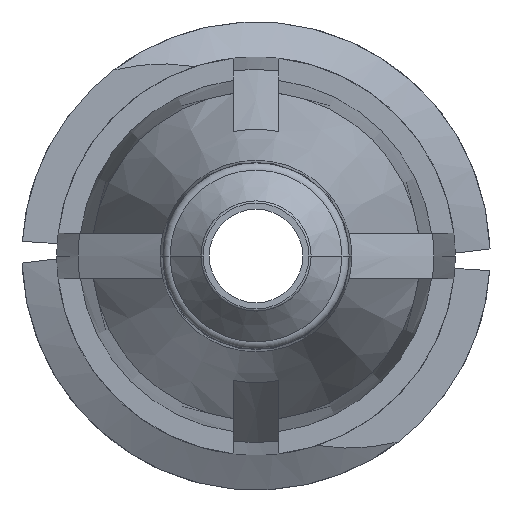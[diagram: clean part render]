
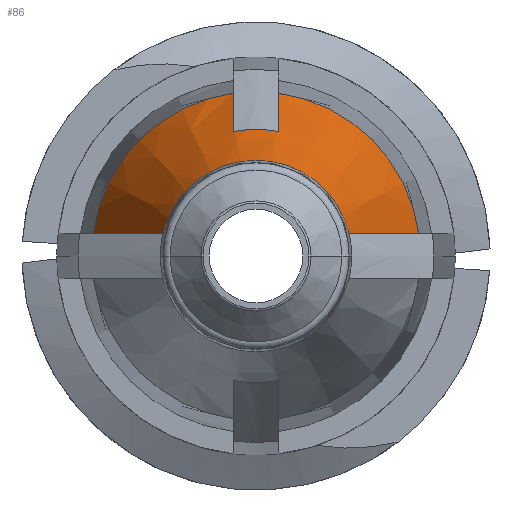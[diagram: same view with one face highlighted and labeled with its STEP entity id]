
A CAD part, front view. The second image highlights one B-rep face of the part: STEP entity #86.
In plain terms, the highlighted conical face has half-angle 20 degrees and reference radius 2.745 mm.
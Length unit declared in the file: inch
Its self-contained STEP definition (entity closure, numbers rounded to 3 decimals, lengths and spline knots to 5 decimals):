
#86 = ADVANCED_FACE ( 'NONE', ( #187 ), #2969, .T. ) ;
#106 = CARTESIAN_POINT ( 'NONE',  ( 0.07664, -0.48863, 0.015 ) ) ;
#128 = CARTESIAN_POINT ( 'NONE',  ( 0.015, -0.45131, 0.09036 ) ) ;
#187 = FACE_OUTER_BOUND ( 'NONE', #2146, .T. ) ;
#201 = CIRCLE ( 'NONE', #1092, 0.063 ) ;
#355 = VERTEX_POINT ( 'NONE', #674 ) ;
#359 = EDGE_CURVE ( 'NONE', #2593, #603, #892, .T. ) ;
#361 = ORIENTED_EDGE ( 'NONE', *, *, #1065, .F. ) ;
#382 = CARTESIAN_POINT ( 'NONE',  ( -0.09185, -0.44732, 0.015 ) ) ;
#435 = CARTESIAN_POINT ( 'NONE',  ( 0.015, -0.47395, 0.08198 ) ) ;
#454 = ORIENTED_EDGE ( 'NONE', *, *, #1885, .T. ) ;
#510 = B_SPLINE_CURVE_WITH_KNOTS ( 'NONE', 3,
 ( #1132, #3233, #1647, #575 ),
 .UNSPECIFIED., .F., .F.,
 ( 4, 4 ),
 ( 0.00343, 0.00527 ),
 .UNSPECIFIED. ) ;
#567 = VERTEX_POINT ( 'NONE', #849 ) ;
#575 = CARTESIAN_POINT ( 'NONE',  ( -0.015, -0.47395, 0.08198 ) ) ;
#603 = VERTEX_POINT ( 'NONE', #3183 ) ;
#627 = VERTEX_POINT ( 'NONE', #3215 ) ;
#658 = CARTESIAN_POINT ( 'NONE',  ( -0.015, -0.47395, 0.08198 ) ) ;
#674 = CARTESIAN_POINT ( 'NONE',  ( -0.015, -0.406, 0.10703 ) ) ;
#849 = CARTESIAN_POINT ( 'NONE',  ( 0.015, -0.406, 0.10703 ) ) ;
#892 = B_SPLINE_CURVE_WITH_KNOTS ( 'NONE', 3,
 ( #3254, #1422, #382, #1490 ),
 .UNSPECIFIED., .F., .F.,
 ( 4, 4 ),
 ( 0.00282, 0.00617 ),
 .UNSPECIFIED. ) ;
#895 = AXIS2_PLACEMENT_3D ( 'NONE', #2331, #2582, #2603 ) ;
#903 = CARTESIAN_POINT ( 'NONE',  ( 0.10703, -0.406, 0.015 ) ) ;
#924 = B_SPLINE_CURVE_WITH_KNOTS ( 'NONE', 3,
 ( #2214, #106, #1161, #903 ),
 .UNSPECIFIED., .F., .F.,
 ( 4, 4 ),
 ( 0.00282, 0.00617 ),
 .UNSPECIFIED. ) ;
#1038 = EDGE_CURVE ( 'NONE', #3228, #2714, #2267, .T. ) ;
#1065 = EDGE_CURVE ( 'NONE', #567, #2709, #2869, .T. ) ;
#1092 = AXIS2_PLACEMENT_3D ( 'NONE', #1216, #1231, #1509 ) ;
#1132 = CARTESIAN_POINT ( 'NONE',  ( -0.015, -0.406, 0.10703 ) ) ;
#1146 = CARTESIAN_POINT ( 'NONE',  ( 0., -0.406, 0. ) ) ;
#1161 = CARTESIAN_POINT ( 'NONE',  ( 0.09185, -0.44732, 0.015 ) ) ;
#1183 = CARTESIAN_POINT ( 'NONE',  ( 0.015, -0.42866, 0.0987 ) ) ;
#1216 = CARTESIAN_POINT ( 'NONE',  ( 0., -0.52985, 0. ) ) ;
#1224 = AXIS2_PLACEMENT_3D ( 'NONE', #1569, #1548, #2846 ) ;
#1231 = DIRECTION ( 'NONE',  ( 0., 1., 0. ) ) ;
#1283 = ORIENTED_EDGE ( 'NONE', *, *, #3204, .F. ) ;
#1290 = ORIENTED_EDGE ( 'NONE', *, *, #1038, .F. ) ;
#1317 = EDGE_CURVE ( 'NONE', #627, #2709, #924, .T. ) ;
#1422 = CARTESIAN_POINT ( 'NONE',  ( -0.07664, -0.48863, 0.015 ) ) ;
#1490 = CARTESIAN_POINT ( 'NONE',  ( -0.10703, -0.406, 0.015 ) ) ;
#1501 = AXIS2_PLACEMENT_3D ( 'NONE', #2274, #2072, #1541 ) ;
#1509 = DIRECTION ( 'NONE',  ( -1., 0., 0. ) ) ;
#1541 = DIRECTION ( 'NONE',  ( -1., 0., 0. ) ) ;
#1548 = DIRECTION ( 'NONE',  ( 0., 1., 0. ) ) ;
#1569 = CARTESIAN_POINT ( 'NONE',  ( 0., -0.47395, 0. ) ) ;
#1647 = CARTESIAN_POINT ( 'NONE',  ( -0.015, -0.45131, 0.09036 ) ) ;
#1791 = EDGE_CURVE ( 'NONE', #355, #3228, #510, .T. ) ;
#1885 = EDGE_CURVE ( 'NONE', #2593, #627, #201, .T. ) ;
#1938 = DIRECTION ( 'NONE',  ( 0., 1., 0. ) ) ;
#1959 = ORIENTED_EDGE ( 'NONE', *, *, #1791, .F. ) ;
#2072 = DIRECTION ( 'NONE',  ( 0., 1., 0. ) ) ;
#2120 = ORIENTED_EDGE ( 'NONE', *, *, #359, .F. ) ;
#2146 = EDGE_LOOP ( 'NONE', ( #2120, #454, #2399, #361, #3200, #1290, #1959, #1283 ) ) ;
#2186 = DIRECTION ( 'NONE',  ( -1., 0., 0. ) ) ;
#2214 = CARTESIAN_POINT ( 'NONE',  ( 0.06119, -0.52985, 0.015 ) ) ;
#2267 = CIRCLE ( 'NONE', #1224, 0.08335 ) ;
#2274 = CARTESIAN_POINT ( 'NONE',  ( 0., -0.406, 0. ) ) ;
#2298 = CARTESIAN_POINT ( 'NONE',  ( 0.10703, -0.406, 0.015 ) ) ;
#2306 = CIRCLE ( 'NONE', #3293, 0.10808 ) ;
#2331 = CARTESIAN_POINT ( 'NONE',  ( 0., -0.406, 0. ) ) ;
#2374 = CARTESIAN_POINT ( 'NONE',  ( -0.06119, -0.52985, 0.015 ) ) ;
#2399 = ORIENTED_EDGE ( 'NONE', *, *, #1317, .T. ) ;
#2484 = CARTESIAN_POINT ( 'NONE',  ( 0.015, -0.47395, 0.08198 ) ) ;
#2582 = DIRECTION ( 'NONE',  ( 0., 1., 0. ) ) ;
#2593 = VERTEX_POINT ( 'NONE', #2374 ) ;
#2603 = DIRECTION ( 'NONE',  ( -1., 0., 0. ) ) ;
#2709 = VERTEX_POINT ( 'NONE', #2298 ) ;
#2714 = VERTEX_POINT ( 'NONE', #435 ) ;
#2846 = DIRECTION ( 'NONE',  ( 1., 0., 0. ) ) ;
#2869 = CIRCLE ( 'NONE', #895, 0.10808 ) ;
#2969 = CONICAL_SURFACE ( 'NONE', #1501, 0.10808, 0.349 ) ;
#3012 = CARTESIAN_POINT ( 'NONE',  ( 0.015, -0.406, 0.10703 ) ) ;
#3036 = B_SPLINE_CURVE_WITH_KNOTS ( 'NONE', 3,
 ( #2484, #128, #1183, #3012 ),
 .UNSPECIFIED., .F., .F.,
 ( 4, 4 ),
 ( 0.00247, 0.00431 ),
 .UNSPECIFIED. ) ;
#3183 = CARTESIAN_POINT ( 'NONE',  ( -0.10703, -0.406, 0.015 ) ) ;
#3200 = ORIENTED_EDGE ( 'NONE', *, *, #3275, .F. ) ;
#3204 = EDGE_CURVE ( 'NONE', #603, #355, #2306, .T. ) ;
#3215 = CARTESIAN_POINT ( 'NONE',  ( 0.06119, -0.52985, 0.015 ) ) ;
#3228 = VERTEX_POINT ( 'NONE', #658 ) ;
#3233 = CARTESIAN_POINT ( 'NONE',  ( -0.015, -0.42866, 0.0987 ) ) ;
#3254 = CARTESIAN_POINT ( 'NONE',  ( -0.06119, -0.52985, 0.015 ) ) ;
#3275 = EDGE_CURVE ( 'NONE', #2714, #567, #3036, .T. ) ;
#3293 = AXIS2_PLACEMENT_3D ( 'NONE', #1146, #1938, #2186 ) ;
